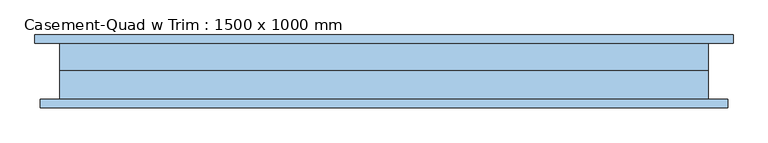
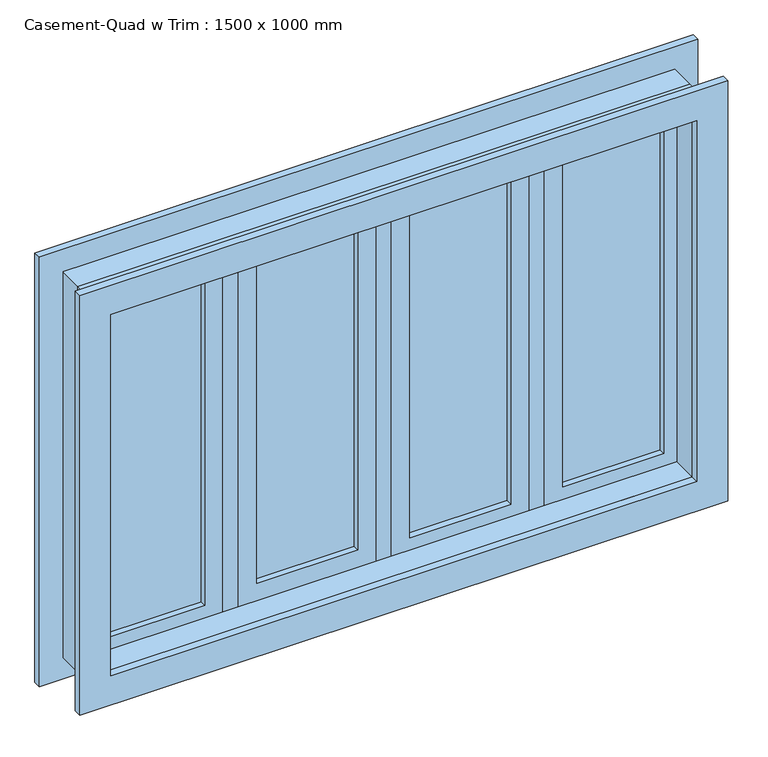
"""IFC4 building model written with IfcOpenShell, lengths in millimetres: window geometry, Casement-Quad w Trim : 1500 x 1000 mm."""

from ifc_helpers import new_model, si_unit, frame, origin, place, context, project, spatial, polyline, outline, extrude, source, transform, mapped, element, save


def casement_quad_w_trim_1500_x_1000_mm_8fcab8cd(model_context):
    return source(origin(), model_context, "Body", "SweptSolid", [
        extrude(outline(polyline([(1958.85, 794.45), (1958.85, -794.45), (869.95, -794.45), (869.95, 794.45), (1958.85, 794.45)]), holes=[polyline([(1882.65, -718.25), (1882.65, 718.25), (946.15, 718.25), (946.15, -718.25), (1882.65, -718.25)])]), frame((0.0, -65.0, 0.0), z_axis=(0.0, 1.0, 0.0), x_axis=(0.0, 0.0, 1.0)), (0.0, 0.0, 1.0), 19.05),
        extrude(outline(polyline([(1971.55, -807.15), (857.25, -807.15), (857.25, 807.15), (1971.55, 807.15), (1971.55, -807.15)]), holes=[polyline([(1895.35, 730.95), (933.45, 730.95), (933.45, -730.95), (1895.35, -730.95), (1895.35, 730.95)])]), frame((0.0, 84.05, 0.0), z_axis=(0.0, 1.0, 0.0), x_axis=(0.0, 0.0, 1.0)), (0.0, 0.0, 1.0), 19.05),
        extrude(outline(polyline([(63.5, 49.125), (311.5, 49.125), (311.5, 36.425), (63.5, 36.425), (63.5, 49.125)])), frame((0.0, 0.0, 977.9), z_axis=(0.0, 0.0, 1.0), x_axis=(1.0, 0.0, 0.0)), (0.0, 0.0, 1.0), 873.0),
        extrude(outline(polyline([(-311.5, 49.125), (-63.5, 49.125), (-63.5, 36.425), (-311.5, 36.425), (-311.5, 49.125)])), frame((0.0, 0.0, 990.6), z_axis=(0.0, 0.0, 1.0), x_axis=(1.0, 0.0, 0.0)), (0.0, 0.0, 1.0), 860.3),
        extrude(outline(polyline([(1895.35, 19.05), (933.45, 19.05), (933.45, 355.95), (1895.35, 355.95), (1895.35, 19.05)]), holes=[polyline([(1850.9, 63.5), (1850.9, 311.5), (977.9, 311.5), (977.9, 63.5), (1850.9, 63.5)])]), frame((0.0, 20.55, 0.0), z_axis=(0.0, 1.0, 0.0), x_axis=(0.0, 0.0, 1.0)), (0.0, 0.0, 1.0), 44.45),
        extrude(outline(polyline([(1895.35, -355.95), (933.45, -355.95), (933.45, -19.05), (1895.35, -19.05), (1895.35, -355.95)]), holes=[polyline([(1850.9, -311.5), (1850.9, -63.5), (990.6, -63.5), (990.6, -311.5), (1850.9, -311.5)])]), frame((0.0, 20.55, 0.0), z_axis=(0.0, 1.0, 0.0), x_axis=(0.0, 0.0, 1.0)), (0.0, 0.0, 1.0), 44.45),
        extrude(outline(polyline([(438.5, 49.125), (686.5, 49.125), (686.5, 36.425), (438.5, 36.425), (438.5, 49.125)])), frame((0.0, 0.0, 977.9), z_axis=(0.0, 0.0, 1.0), x_axis=(1.0, 0.0, 0.0)), (0.0, 0.0, 1.0), 873.0),
        extrude(outline(polyline([(1895.35, 394.05), (933.45, 394.05), (933.45, 730.95), (1895.35, 730.95), (1895.35, 394.05)]), holes=[polyline([(1850.9, 438.5), (1850.9, 686.5), (977.9, 686.5), (977.9, 438.5), (1850.9, 438.5)])]), frame((0.0, 20.55, 0.0), z_axis=(0.0, 1.0, 0.0), x_axis=(0.0, 0.0, 1.0)), (0.0, 0.0, 1.0), 44.45),
        extrude(outline(polyline([(-355.95, 20.55), (-394.05, 20.55), (-394.05, 84.05), (-355.95, 84.05), (-355.95, 20.55)])), frame((0.0, 0.0, 933.45), z_axis=(0.0, 0.0, 1.0), x_axis=(1.0, 0.0, 0.0)), (0.0, 0.0, 1.0), 961.9),
        extrude(outline(polyline([(394.05, 20.55), (355.95, 20.55), (355.95, 84.05), (394.05, 84.05), (394.05, 20.55)])), frame((0.0, 0.0, 933.45), z_axis=(0.0, 0.0, 1.0), x_axis=(1.0, 0.0, 0.0)), (0.0, 0.0, 1.0), 961.9),
        extrude(outline(polyline([(19.05, 20.55), (-19.05, 20.55), (-19.05, 84.05), (19.05, 84.05), (19.05, 20.55)])), frame((0.0, 0.0, 933.45), z_axis=(0.0, 0.0, 1.0), x_axis=(1.0, 0.0, 0.0)), (0.0, 0.0, 1.0), 961.9),
        extrude(outline(polyline([(-438.5, 36.425), (-686.5, 36.425), (-686.5, 49.125), (-438.5, 49.125), (-438.5, 36.425)])), frame((0.0, 0.0, 977.9), z_axis=(0.0, 0.0, 1.0), x_axis=(1.0, 0.0, 0.0)), (0.0, 0.0, 1.0), 873.0),
        extrude(outline(polyline([(1895.35, -730.95), (933.45, -730.95), (933.45, -394.05), (1895.35, -394.05), (1895.35, -730.95)]), holes=[polyline([(1850.9, -686.5), (1850.9, -438.5), (977.9, -438.5), (977.9, -686.5), (1850.9, -686.5)])]), frame((0.0, 20.55, 0.0), z_axis=(0.0, 1.0, 0.0), x_axis=(0.0, 0.0, 1.0)), (0.0, 0.0, 1.0), 44.45),
        extrude(outline(polyline([(1914.4, -750.0), (914.4, -750.0), (914.4, 750.0), (1914.4, 750.0), (1914.4, -750.0)]), holes=[polyline([(1882.65, -718.25), (1882.65, 718.25), (946.15, 718.25), (946.15, -718.25), (1882.65, -718.25)])]), frame((0.0, -45.95, 0.0), z_axis=(0.0, 1.0, 0.0), x_axis=(0.0, 0.0, 1.0)), (0.0, 0.0, 1.0), 66.5),
        extrude(outline(polyline([(1914.4, 750.0), (1914.4, -750.0), (914.4, -750.0), (914.4, 750.0), (1914.4, 750.0)]), holes=[polyline([(1895.35, 730.95), (933.45, 730.95), (933.45, -730.95), (1895.35, -730.95), (1895.35, 730.95)])]), frame((0.0, 20.55, 0.0), z_axis=(0.0, 1.0, 0.0), x_axis=(0.0, 0.0, 1.0)), (0.0, 0.0, 1.0), 63.5),
    ])


if __name__ == "__main__":
    model = new_model("IFC4")
    model_context = context("Model", 3, world=origin())
    ifc_project = project(units=[si_unit("LENGTHUNIT", "METRE", prefix="MILLI")], contexts=[model_context])
    site = spatial("IfcSite", under=ifc_project)
    building = spatial("IfcBuilding", under=site)
    placement = place(None, origin())
    casement_quad_w_trim_1500_x_1000_mm_shape = casement_quad_w_trim_1500_x_1000_mm_8fcab8cd(model_context)
    element("IfcWindow", 1, ObjectType="Casement-Quad w Trim : 1500 x 1000 mm", at=placement, inside=building, context=model_context, shape_type="MappedRepresentation", body=[
        mapped(casement_quad_w_trim_1500_x_1000_mm_shape, transform((0.0, 0.0, 0.0), x_axis=(1.0, 0.0, 0.0), y_axis=(0.0, 1.0, 0.0), z_axis=(0.0, 0.0, 1.0))),
    ])
    save(model, "model.ifc")
